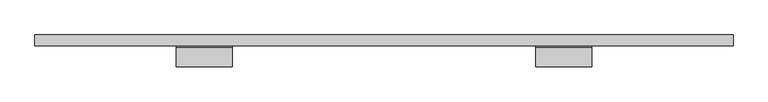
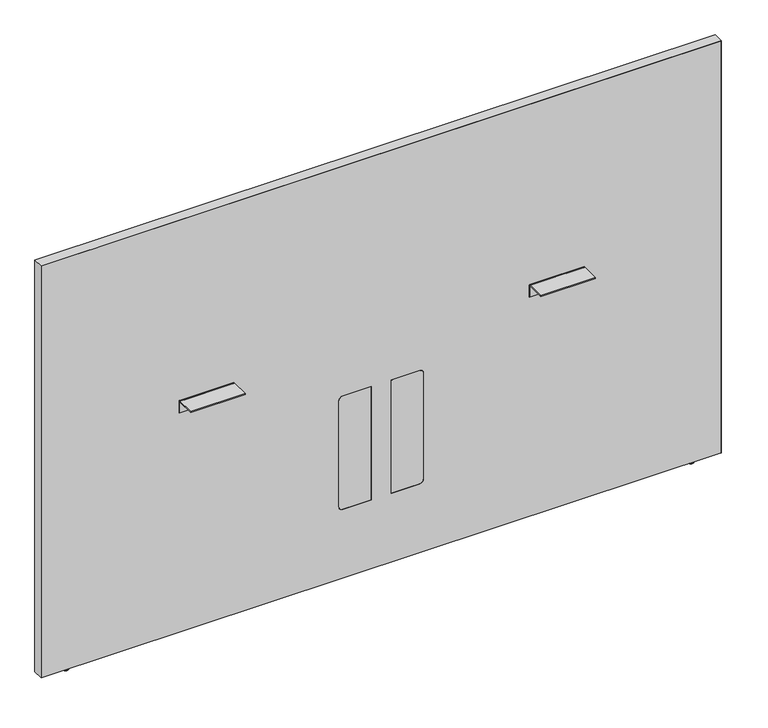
"""IFC4 building model written with IfcOpenShell, lengths in millimetres: furniture geometry, Steelcase - Answer Solution - Boundary Screen - Straight - Spanning : 48H x 75W."""

from ifc_helpers import new_model, si_unit, point, frame, frame_2d, origin, place, context, project, spatial, polyline, circle_curve, ellipse_curve, trimmed, segment, composite_curve, outline, extrude, source, transform, mapped, element, save
from ifc_brep_helpers import plane_surface, cylinder_surface, revolved_surface, advanced_brep


def furniture_5802c129(model_context):
    return source(origin(), model_context, "Body", "SolidModel", [
        advanced_brep(
        [(-645.4902705, -14.8449166, 9.9059849), (-645.4902705, -5.9309607, 9.9059849), (-645.4902705, -23.7588726, 9.9059849), (-645.4902705, -5.9309607, 2.9673238), (-645.4902705, -23.7588726, 2.9673238), (-645.4902705, -6.8982978, 2.9673238), (-645.4902705, -22.7915354, 2.9673238), (-645.4902705, -6.8982978, 1.6569081), (-645.4902705, -22.7915354, 1.6569081), (-645.4902705, -8.5552059, 0.0), (-645.4902705, -21.1346274, 0.0), (-645.4902705, -14.8449166, 0.0)],
        [
            (0, 1),
            (1, 2, circle_curve(frame((-645.4902705, -14.8449166, 9.9059849), z_axis=(0.0, 0.0, 1.0), x_axis=(0.0, 1.0, 0.0)), 8.913956)),
            (2, 0),
            (2, 1, circle_curve(frame((-645.4902705, -14.8449166, 9.9059849), z_axis=(0.0, 0.0, 1.0), x_axis=(0.0, 1.0, 0.0)), 8.913956)),
            (1, 3),
            (3, 4, circle_curve(frame((-645.4902705, -14.8449166, 2.9673238), z_axis=(0.0, 0.0, 1.0), x_axis=(0.0, 1.0, 0.0)), 8.913956)),
            (4, 2),
            (4, 3, circle_curve(frame((-645.4902705, -14.8449166, 2.9673238), z_axis=(0.0, 0.0, 1.0), x_axis=(0.0, 1.0, 0.0)), 8.913956)),
            (3, 5),
            (5, 6, circle_curve(frame((-645.4902705, -14.8449166, 2.9673238), z_axis=(0.0, 0.0, 1.0), x_axis=(0.0, 1.0, 0.0)), 7.9466188)),
            (6, 4),
            (6, 5, circle_curve(frame((-645.4902705, -14.8449166, 2.9673238), z_axis=(0.0, 0.0, 1.0), x_axis=(0.0, 1.0, 0.0)), 7.9466188)),
            (5, 7),
            (7, 8, circle_curve(frame((-645.4902705, -14.8449166, 1.6569081), z_axis=(0.0, 0.0, 1.0), x_axis=(0.0, 1.0, 0.0)), 7.9466188)),
            (8, 6),
            (8, 7, circle_curve(frame((-645.4902705, -14.8449166, 1.6569081), z_axis=(0.0, 0.0, 1.0), x_axis=(0.0, 1.0, 0.0)), 7.9466188)),
            (7, 9, circle_curve(frame((-645.4902705, -8.5552059, 1.6569081), z_axis=(-1.0, 0.0, 0.0), x_axis=(0.0, 1.0, 0.0)), 1.6569081)),
            (9, 10, circle_curve(frame((-645.4902705, -14.8449166, 0.0), z_axis=(0.0, 0.0, 1.0), x_axis=(0.0, 1.0, 0.0)), 6.2897107)),
            (10, 8, circle_curve(frame((-645.4902705, -21.1346274, 1.6569081), z_axis=(-1.0, 0.0, 0.0), x_axis=(0.0, -1.0, 0.0)), 1.6569081)),
            (10, 9, circle_curve(frame((-645.4902705, -14.8449166, 0.0), z_axis=(0.0, 0.0, 1.0), x_axis=(0.0, 1.0, 0.0)), 6.2897107)),
            (9, 11),
            (11, 10),
        ],
        [
            plane_surface(frame((-645.4902705, -14.8449166, 9.9059849), z_axis=(0.0, 0.0, 1.0), x_axis=(0.0, 1.0, 0.0))),
            cylinder_surface(frame((-645.4902705, -14.8449166, 9.9059849), z_axis=(0.0, 0.0, 1.0), x_axis=(0.0, 1.0, 0.0)), 8.913956),
            plane_surface(frame((-645.4902705, -14.8449166, 2.9673238), z_axis=(0.0, 0.0, -1.0), x_axis=(0.0, 1.0, 0.0))),
            cylinder_surface(frame((-645.4902705, -14.8449166, 9.9059849), z_axis=(0.0, 0.0, 1.0), x_axis=(0.0, 1.0, 0.0)), 7.9466188),
            revolved_surface(trimmed(ellipse_curve(frame((-645.4902705, -8.5552059, 1.6569081), z_axis=(1.0, 0.0, 0.0), x_axis=(0.0, 1.0, 0.0)), 1.6569081, 1.6569081), [point((-645.4902705, -8.5552059, 0.0))], [point((-645.4902705, -6.8982978, 1.6569081))], True, "CARTESIAN"), (-645.4902705, -14.8449166, 9.9059849), (0.0, 0.0, 1.0)),
            plane_surface(frame((-645.4902705, -14.8449166, 0.0), z_axis=(0.0, 0.0, -1.0), x_axis=(0.0, 1.0, 0.0))),
        ],
        [
            (0, [[1, 2, 3]]),
            (0, [[-3, 4, -1]]),
            (1, [[-2, 5, 6, 7]]),
            (1, [[-4, -7, 8, -5]]),
            (2, [[-6, 9, 10, 11]]),
            (2, [[-8, -11, 12, -9]]),
            (3, [[-10, 13, 14, 15]]),
            (3, [[-12, -15, 16, -13]]),
            (4, [[-14, 17, 18, 19]]),
            (4, [[-16, -19, 20, -17]]),
            (5, [[-18, 21, 22]]),
            (5, [[-20, -22, -21]]),
        ],
    ),
        extrude(outline(composite_curve([segment(polyline([(-86.8398151, 696.4680019), (-86.8398151, 698.5), (-34.9450855, 698.5)]), True, "CONTINUOUS"), segment(trimmed(circle_curve(frame_2d((-34.9450855, 693.2447477)), 5.2552523), [point((-34.9450855, 698.5))], [point((-29.6898332, 693.2447477))], False, "CARTESIAN"), True, "CONTINUOUS"), segment(polyline([(-29.6898332, 693.2447477), (-29.6898332, 660.4), (-31.7218162, 660.4), (-31.7218162, 693.0058743)]), True, "CONTINUOUS"), segment(trimmed(circle_curve(frame_2d((-35.1839438, 693.0058743)), 3.4621276), [point((-31.7218162, 693.0058743))], [point((-35.1839438, 696.4680019))], True, "CARTESIAN"), True, "CONTINUOUS"), segment(polyline([(-35.1839438, 696.4680019), (-86.8398151, 696.4680019)]), True, "CONTINUOUS")], self_intersect=False)), frame((644.0282189, 0.0, 0.0), z_axis=(1.0, 0.0, 0.0), x_axis=(0.0, 1.0, 0.0)), (0.0, 0.0, 1.0), 152.4000969),
        extrude(outline(composite_curve([segment(polyline([(-86.8398151, 696.4680019), (-86.8398151, 698.5), (-34.9450855, 698.5)]), True, "CONTINUOUS"), segment(trimmed(circle_curve(frame_2d((-34.9450855, 693.2447477)), 5.2552523), [point((-34.9450855, 698.5))], [point((-29.6898332, 693.2447477))], False, "CARTESIAN"), True, "CONTINUOUS"), segment(polyline([(-29.6898332, 693.2447477), (-29.6898332, 660.4), (-31.7218162, 660.4), (-31.7218162, 693.0058743)]), True, "CONTINUOUS"), segment(trimmed(circle_curve(frame_2d((-35.1839438, 693.0058743)), 3.4621276), [point((-31.7218162, 693.0058743))], [point((-35.1839438, 696.4680019))], True, "CARTESIAN"), True, "CONTINUOUS"), segment(polyline([(-35.1839438, 696.4680019), (-86.8398151, 696.4680019)]), True, "CONTINUOUS")], self_intersect=False)), frame((-336.7884581, 0.0, 0.0), z_axis=(1.0, 0.0, 0.0), x_axis=(0.0, 1.0, 0.0)), (0.0, 0.0, 1.0), 152.4000969),
        advanced_brep(
        [(1105.1286488, -23.7588726, 9.9059849), (1105.1286488, -5.9309607, 9.9059849), (1105.1286488, -14.8449166, 9.9059849), (1105.1286488, -23.7588726, 2.9673238), (1105.1286488, -5.9309607, 2.9673238), (1105.1286488, -22.7915354, 2.9673238), (1105.1286488, -6.8982978, 2.9673238), (1105.1286488, -22.7915354, 1.6569081), (1105.1286488, -6.8982978, 1.6569081), (1105.1286488, -21.1346274, 0.0), (1105.1286488, -8.5552059, 0.0), (1105.1286488, -14.8449166, 0.0)],
        [
            (0, 1, circle_curve(frame((1105.1286488, -14.8449166, 9.9059849), z_axis=(0.0, 0.0, 1.0), x_axis=(0.0, 1.0, 0.0)), 8.913956)),
            (1, 2),
            (2, 0),
            (1, 0, circle_curve(frame((1105.1286488, -14.8449166, 9.9059849), z_axis=(0.0, 0.0, 1.0), x_axis=(0.0, 1.0, 0.0)), 8.913956)),
            (3, 4, circle_curve(frame((1105.1286488, -14.8449166, 2.9673238), z_axis=(0.0, 0.0, 1.0), x_axis=(0.0, 1.0, 0.0)), 8.913956)),
            (4, 1),
            (0, 3),
            (4, 3, circle_curve(frame((1105.1286488, -14.8449166, 2.9673238), z_axis=(0.0, 0.0, 1.0), x_axis=(0.0, 1.0, 0.0)), 8.913956)),
            (5, 6, circle_curve(frame((1105.1286488, -14.8449166, 2.9673238), z_axis=(0.0, 0.0, 1.0), x_axis=(0.0, 1.0, 0.0)), 7.9466188)),
            (6, 4),
            (3, 5),
            (6, 5, circle_curve(frame((1105.1286488, -14.8449166, 2.9673238), z_axis=(0.0, 0.0, 1.0), x_axis=(0.0, 1.0, 0.0)), 7.9466188)),
            (7, 8, circle_curve(frame((1105.1286488, -14.8449166, 1.6569081), z_axis=(0.0, 0.0, 1.0), x_axis=(0.0, 1.0, 0.0)), 7.9466188)),
            (8, 6),
            (5, 7),
            (8, 7, circle_curve(frame((1105.1286488, -14.8449166, 1.6569081), z_axis=(0.0, 0.0, 1.0), x_axis=(0.0, 1.0, 0.0)), 7.9466188)),
            (9, 10, circle_curve(frame((1105.1286488, -14.8449166, 0.0), z_axis=(0.0, 0.0, 1.0), x_axis=(0.0, 1.0, 0.0)), 6.2897107)),
            (10, 8, circle_curve(frame((1105.1286488, -8.5552059, 1.6569081), z_axis=(1.0, 0.0, 0.0), x_axis=(0.0, 1.0, 0.0)), 1.6569081)),
            (7, 9, circle_curve(frame((1105.1286488, -21.1346274, 1.6569081), z_axis=(1.0, 0.0, 0.0), x_axis=(0.0, -1.0, 0.0)), 1.6569081)),
            (10, 9, circle_curve(frame((1105.1286488, -14.8449166, 0.0), z_axis=(0.0, 0.0, 1.0), x_axis=(0.0, 1.0, 0.0)), 6.2897107)),
            (11, 10),
            (9, 11),
        ],
        [
            plane_surface(frame((1105.1286488, -14.8449166, 9.9059849), z_axis=(0.0, 0.0, 1.0), x_axis=(0.0, 1.0, 0.0))),
            cylinder_surface(frame((1105.1286488, -14.8449166, 9.9059849), z_axis=(0.0, 0.0, -1.0), x_axis=(0.0, 1.0, 0.0)), 8.913956),
            plane_surface(frame((1105.1286488, -14.8449166, 2.9673238), z_axis=(0.0, 0.0, -1.0), x_axis=(0.0, 1.0, 0.0))),
            cylinder_surface(frame((1105.1286488, -14.8449166, 9.9059849), z_axis=(0.0, 0.0, -1.0), x_axis=(0.0, 1.0, 0.0)), 7.9466188),
            revolved_surface(trimmed(ellipse_curve(frame((1105.1286488, -8.5552059, 1.6569081), z_axis=(-1.0, 0.0, 0.0), x_axis=(0.0, 1.0, 0.0)), 1.6569081, 1.6569081), [point((1105.1286488, -6.8982978, 1.6569081))], [point((1105.1286488, -8.5552059, 0.0))], True, "CARTESIAN"), (1105.1286488, -14.8449166, 9.9059849), (0.0, 0.0, -1.0)),
            plane_surface(frame((1105.1286488, -14.8449166, 0.0), z_axis=(0.0, 0.0, -1.0), x_axis=(0.0, 1.0, 0.0))),
        ],
        [
            (0, [[1, 2, 3]]),
            (0, [[4, -3, -2]]),
            (1, [[5, 6, -1, 7]]),
            (1, [[8, -7, -4, -6]]),
            (2, [[9, 10, -5, 11]]),
            (2, [[12, -11, -8, -10]]),
            (3, [[13, 14, -9, 15]]),
            (3, [[16, -15, -12, -14]]),
            (4, [[17, 18, -13, 19]]),
            (4, [[20, -19, -16, -18]]),
            (5, [[21, -17, 22]]),
            (5, [[-22, -20, -21]]),
        ],
    ),
        advanced_brep(
        [(1181.2780168, 0.0, 1229.142118), (1181.2780168, 0.0, 9.9059849), (-721.6902221, 0.0, 9.9059849), (-721.6902221, 0.0, 1229.142118), (1181.2780168, -29.6898332, 1229.142118), (-721.6902221, -29.6898332, 1229.142118), (-721.6902221, -29.6898332, 9.9059849), (1181.2780168, -29.6898332, 9.9059849), (337.7883813, -29.6898332, 549.6162029), (347.9483813, -29.6898332, 539.4562029), (347.9483813, -29.6898332, 223.9362137), (337.7883813, -29.6898332, 213.7762137), (258.1344836, -29.6898332, 213.7762137), (258.1344836, -29.6898332, 549.6162029), (121.849997, -29.6898332, 549.6162029), (201.5038947, -29.6898332, 549.6162029), (201.5038947, -29.6898332, 213.7762137), (121.849997, -29.6898332, 213.7762137), (111.689997, -29.6898332, 223.9362137), (111.689997, -29.6898332, 539.4562029), (258.1344836, -29.0550397, 549.6162029), (337.7883813, -29.0550397, 549.6162029), (258.1344836, -29.0550397, 213.7762137), (337.7883813, -29.0550397, 213.7762137), (347.9483813, -29.0550397, 223.9362137), (347.9483813, -29.0550397, 539.4562029), (121.849997, -29.0550397, 549.6162029), (111.689997, -29.0550397, 539.4562029), (111.689997, -29.0550397, 223.9362137), (121.849997, -29.0550397, 213.7762137), (201.5038947, -29.0550397, 213.7762137), (201.5038947, -29.0550397, 549.6162029)],
        [
            (0, 1),
            (1, 2),
            (2, 3),
            (3, 0),
            (4, 5),
            (5, 6),
            (6, 7),
            (7, 4),
            (8, 9, circle_curve(frame((337.7883813, -29.6898332, 539.4562029), z_axis=(0.0, 1.0, 0.0), x_axis=(0.0, 0.0, 1.0)), 10.16)),
            (9, 10),
            (10, 11, circle_curve(frame((337.7883813, -29.6898332, 223.9362137), z_axis=(0.0, 1.0, 0.0), x_axis=(0.0, 0.0, 1.0)), 10.16)),
            (11, 12),
            (12, 13),
            (13, 8),
            (14, 15),
            (15, 16),
            (16, 17),
            (17, 18, circle_curve(frame((121.849997, -29.6898332, 223.9362137), z_axis=(0.0, 1.0, 0.0), x_axis=(0.0, 0.0, 1.0)), 10.16)),
            (18, 19),
            (19, 14, circle_curve(frame((121.849997, -29.6898332, 539.4562029), z_axis=(0.0, 1.0, 0.0), x_axis=(0.0, 0.0, 1.0)), 10.16)),
            (0, 4),
            (7, 1),
            (6, 2),
            (5, 3),
            (13, 20),
            (20, 21),
            (21, 8),
            (12, 22),
            (22, 20),
            (11, 23),
            (23, 22),
            (10, 24),
            (24, 23, circle_curve(frame((337.7883813, -29.0550397, 223.9362137), z_axis=(0.0, 1.0, 0.0), x_axis=(0.0, 0.0, 1.0)), 10.16)),
            (9, 25),
            (25, 24),
            (21, 25, circle_curve(frame((337.7883813, -29.0550397, 539.4562029), z_axis=(0.0, 1.0, 0.0), x_axis=(0.0, 0.0, 1.0)), 10.16)),
            (26, 27, circle_curve(frame((121.849997, -29.0550397, 539.4562029), z_axis=(0.0, -1.0, 0.0), x_axis=(0.0, 0.0, 1.0)), 10.16)),
            (27, 28),
            (28, 29, circle_curve(frame((121.849997, -29.0550397, 223.9362137), z_axis=(0.0, -1.0, 0.0), x_axis=(0.0, 0.0, 1.0)), 10.16)),
            (29, 30),
            (30, 31),
            (31, 26),
            (19, 27),
            (26, 14),
            (18, 28),
            (17, 29),
            (16, 30),
            (15, 31),
        ],
        [
            plane_surface(frame((1181.2780168, 0.0, 1229.142118), z_axis=(0.0, 1.0, 0.0), x_axis=(0.0, 0.0, -1.0))),
            plane_surface(frame((1181.2780168, -29.6898332, 1229.142118), z_axis=(0.0, -1.0, 0.0), x_axis=(0.0, 0.0, 1.0))),
            plane_surface(frame((1181.2780168, 0.0, 1229.142118), z_axis=(1.0, 0.0, 0.0), x_axis=(0.0, -1.0, 0.0))),
            plane_surface(frame((1181.2780168, 0.0, 9.9059849), z_axis=(0.0, 0.0, -1.0), x_axis=(0.0, -1.0, 0.0))),
            plane_surface(frame((-721.6902221, 0.0, 9.9059849), z_axis=(-1.0, 0.0, 0.0), x_axis=(0.0, -1.0, 0.0))),
            plane_surface(frame((-721.6902221, 0.0, 1229.142118), z_axis=(0.0, 0.0, 1.0), x_axis=(0.0, -1.0, 0.0))),
            plane_surface(frame((337.7883813, 0.0, 549.6162029), z_axis=(0.0, 0.0, -1.0), x_axis=(0.0, -1.0, 0.0))),
            plane_surface(frame((258.1344836, 0.0, 549.6162029), z_axis=(1.0, 0.0, 0.0), x_axis=(0.0, -1.0, 0.0))),
            plane_surface(frame((258.1344836, 0.0, 213.7762137), z_axis=(0.0, 0.0, 1.0), x_axis=(0.0, -1.0, 0.0))),
            revolved_surface(polyline([(337.7883813, -29.6898332, 234.0962137), (337.7883813, -29.0550397, 234.0962137)]), (337.7883813, -29.6898332, 223.9362137), (0.0, -1.0, 0.0)),
            plane_surface(frame((347.9483813, 0.0, 223.9362137), z_axis=(-1.0, 0.0, 0.0), x_axis=(0.0, -1.0, 0.0))),
            revolved_surface(polyline([(337.7883813, -29.6898332, 549.6162029), (337.7883813, -29.0550397, 549.6162029)]), (337.7883813, -29.6898332, 539.4562029), (0.0, -1.0, 0.0)),
            plane_surface(frame((347.9483813, -29.0550397, 549.6162029), z_axis=(0.0, -1.0, 0.0), x_axis=(0.0, 0.0, 1.0))),
            revolved_surface(polyline([(121.849997, -29.6898332, 549.6162029), (121.849997, -29.0550397, 549.6162029)]), (121.849997, -29.6898332, 539.4562029), (0.0, -1.0, 0.0)),
            plane_surface(frame((111.689997, 0.0, 539.4562029), z_axis=(1.0, 0.0, 0.0), x_axis=(0.0, -1.0, 0.0))),
            revolved_surface(polyline([(121.849997, -29.6898332, 234.0962137), (121.849997, -29.0550397, 234.0962137)]), (121.849997, -29.6898332, 223.9362137), (0.0, -1.0, 0.0)),
            plane_surface(frame((121.849997, 0.0, 213.7762137), z_axis=(0.0, 0.0, 1.0), x_axis=(0.0, -1.0, 0.0))),
            plane_surface(frame((201.5038947, 0.0, 213.7762137), z_axis=(-1.0, 0.0, 0.0), x_axis=(0.0, -1.0, 0.0))),
            plane_surface(frame((201.5038947, 0.0, 549.6162029), z_axis=(0.0, 0.0, -1.0), x_axis=(0.0, -1.0, 0.0))),
        ],
        [
            (0, [[1, 2, 3, 4]]),
            (1, [[5, 6, 7, 8], [9, 10, 11, 12, 13, 14], [15, 16, 17, 18, 19, 20]]),
            (2, [[-1, 21, -8, 22]]),
            (3, [[-2, -22, -7, 23]]),
            (4, [[-3, -23, -6, 24]]),
            (5, [[-4, -24, -5, -21]]),
            (6, [[-14, 25, 26, 27]]),
            (7, [[-13, 28, 29, -25]]),
            (8, [[-12, 30, 31, -28]]),
            (9, [[-11, 32, 33, -30]]),
            (10, [[-10, 34, 35, -32]]),
            (11, [[-9, -27, 36, -34]]),
            (12, [[-26, -29, -31, -33, -35, -36]]),
            (12, [[37, 38, 39, 40, 41, 42]]),
            (13, [[-20, 43, -37, 44]]),
            (14, [[-19, 45, -38, -43]]),
            (15, [[-18, 46, -39, -45]]),
            (16, [[-17, 47, -40, -46]]),
            (17, [[-16, 48, -41, -47]]),
            (18, [[-15, -44, -42, -48]]),
        ],
    ),
        extrude(outline(composite_curve([segment(polyline([(549.6162029, 337.7883813), (549.6162029, 258.1344836), (213.7762137, 258.1344836), (213.7762137, 337.7883813)]), True, "CONTINUOUS"), segment(trimmed(circle_curve(frame_2d((223.9362137, 337.7883813)), 10.16), [point((213.7762137, 337.7883813))], [point((223.9362137, 347.9483813))], False, "CARTESIAN"), True, "CONTINUOUS"), segment(polyline([(223.9362137, 347.9483813), (539.4562029, 347.9483813)]), True, "CONTINUOUS"), segment(trimmed(circle_curve(frame_2d((539.4562029, 337.7883813)), 10.16), [point((539.4562029, 347.9483813))], [point((549.6162029, 337.7883813))], False, "CARTESIAN"), True, "CONTINUOUS")], self_intersect=False)), frame((0.0, -29.6898332, 0.0), z_axis=(0.0, 1.0, 0.0), x_axis=(0.0, 0.0, 1.0)), (0.0, 0.0, 1.0), 0.6347935),
        extrude(outline(composite_curve([segment(trimmed(circle_curve(frame_2d((539.4562029, 121.849997)), 10.16), [point((549.6162029, 121.849997))], [point((539.4562029, 111.689997))], False, "CARTESIAN"), True, "CONTINUOUS"), segment(polyline([(539.4562029, 111.689997), (223.9362137, 111.689997)]), True, "CONTINUOUS"), segment(trimmed(circle_curve(frame_2d((223.9362137, 121.849997)), 10.16), [point((223.9362137, 111.689997))], [point((213.7762137, 121.849997))], False, "CARTESIAN"), True, "CONTINUOUS"), segment(polyline([(213.7762137, 121.849997), (213.7762137, 201.5038947), (549.6162029, 201.5038947), (549.6162029, 121.849997)]), True, "CONTINUOUS")], self_intersect=False)), frame((0.0, -29.6898332, 0.0), z_axis=(0.0, 1.0, 0.0), x_axis=(0.0, 0.0, 1.0)), (0.0, 0.0, 1.0), 0.6347935),
        extrude(outline(polyline([(1230.122, 1182.3191891), (1230.122, -722.6808109), (9.9059849, -722.6808109), (9.9059849, -721.6902221), (1229.142118, -721.6902221), (1229.142118, 1181.2780168), (9.9059849, 1181.2780168), (9.9059849, 1182.3191891), (1230.122, 1182.3191891)])), frame((0.0, -29.6898332, 0.0), z_axis=(0.0, 1.0, 0.0), x_axis=(0.0, 0.0, 1.0)), (0.0, 0.0, 1.0), 29.6898332),
    ])


if __name__ == "__main__":
    model = new_model("IFC4")
    model_context = context("Model", 3, world=origin())
    ifc_project = project(units=[si_unit("LENGTHUNIT", "METRE", prefix="MILLI")], contexts=[model_context])
    site = spatial("IfcSite", under=ifc_project)
    building = spatial("IfcBuilding", under=site)
    placement = place(None, origin())
    furniture_shape = furniture_5802c129(model_context)
    element("IfcFurniture", 1, ObjectType="Steelcase - Answer Solution - Boundary Screen - Straight - Spanning : 48H x 75W", at=placement, inside=building, context=model_context, shape_type="MappedRepresentation", body=[
        mapped(furniture_shape, transform((0.0, 0.0, 0.0), x_axis=(1.0, 0.0, 0.0), y_axis=(0.0, 1.0, 0.0), z_axis=(0.0, 0.0, 1.0))),
    ])
    save(model, "model.ifc")
